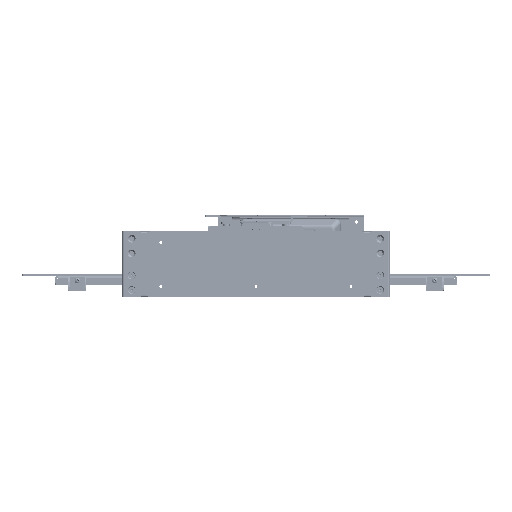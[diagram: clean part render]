
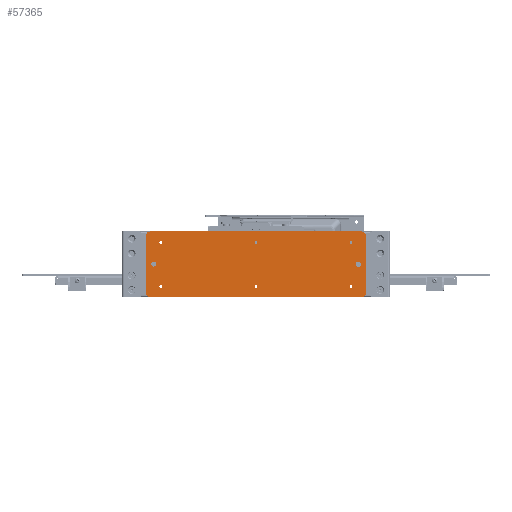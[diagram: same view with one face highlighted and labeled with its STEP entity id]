
A CAD part, top view. The second image highlights one B-rep face of the part: STEP entity #57365.
In plain terms, the highlighted planar face has unit normal (0, 0, 1) as drawn and (0, 0, -1) by its records, which use the part's own axes.
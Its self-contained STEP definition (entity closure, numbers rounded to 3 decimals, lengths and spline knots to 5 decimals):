
#5453=LINE('',#92304,#10705);
#5457=LINE('',#92313,#10709);
#5461=LINE('',#92322,#10713);
#5467=LINE('',#92346,#10719);
#10705=VECTOR('',#74858,1.);
#10709=VECTOR('',#74864,1.);
#10713=VECTOR('',#74870,1.);
#10719=VECTOR('',#74890,1.);
#20250=ORIENTED_EDGE('',*,*,#33287,.T.);
#20251=ORIENTED_EDGE('',*,*,#33288,.T.);
#20252=ORIENTED_EDGE('',*,*,#33289,.T.);
#20253=ORIENTED_EDGE('',*,*,#33290,.T.);
#20254=ORIENTED_EDGE('',*,*,#33291,.T.);
#20255=ORIENTED_EDGE('',*,*,#33292,.T.);
#20256=ORIENTED_EDGE('',*,*,#33270,.T.);
#20257=ORIENTED_EDGE('',*,*,#33272,.T.);
#20258=ORIENTED_EDGE('',*,*,#33275,.F.);
#20259=ORIENTED_EDGE('',*,*,#33293,.T.);
#20260=ORIENTED_EDGE('',*,*,#33265,.F.);
#20261=ORIENTED_EDGE('',*,*,#33294,.T.);
#20262=ORIENTED_EDGE('',*,*,#33261,.T.);
#20263=ORIENTED_EDGE('',*,*,#33295,.T.);
#20264=ORIENTED_EDGE('',*,*,#33257,.T.);
#20265=ORIENTED_EDGE('',*,*,#33296,.T.);
#33257=EDGE_CURVE('',#40326,#40327,#5453,.T.);
#33261=EDGE_CURVE('',#40330,#40331,#5457,.T.);
#33265=EDGE_CURVE('',#40334,#40335,#5461,.T.);
#33270=EDGE_CURVE('',#40339,#40339,#44483,.F.);
#33272=EDGE_CURVE('',#40341,#40341,#44485,.F.);
#33275=EDGE_CURVE('',#40344,#40345,#5467,.T.);
#33287=EDGE_CURVE('',#40352,#40352,#44496,.F.);
#33288=EDGE_CURVE('',#40353,#40353,#44497,.F.);
#33289=EDGE_CURVE('',#40354,#40354,#44498,.F.);
#33290=EDGE_CURVE('',#40355,#40355,#44499,.F.);
#33291=EDGE_CURVE('',#40356,#40356,#44500,.F.);
#33292=EDGE_CURVE('',#40357,#40357,#44501,.F.);
#33293=EDGE_CURVE('',#40344,#40335,#44502,.T.);
#33294=EDGE_CURVE('',#40334,#40330,#44503,.T.);
#33295=EDGE_CURVE('',#40331,#40326,#44504,.T.);
#33296=EDGE_CURVE('',#40327,#40345,#44505,.T.);
#40326=VERTEX_POINT('',#92305);
#40327=VERTEX_POINT('',#92306);
#40330=VERTEX_POINT('',#92314);
#40331=VERTEX_POINT('',#92315);
#40334=VERTEX_POINT('',#92323);
#40335=VERTEX_POINT('',#92324);
#40339=VERTEX_POINT('',#92334);
#40341=VERTEX_POINT('',#92339);
#40344=VERTEX_POINT('',#92345);
#40345=VERTEX_POINT('',#92347);
#40352=VERTEX_POINT('',#92368);
#40353=VERTEX_POINT('',#92370);
#40354=VERTEX_POINT('',#92372);
#40355=VERTEX_POINT('',#92374);
#40356=VERTEX_POINT('',#92376);
#40357=VERTEX_POINT('',#92378);
#44483=CIRCLE('',#64677,0.00396);
#44485=CIRCLE('',#64680,0.00396);
#44496=CIRCLE('',#64694,0.00246);
#44497=CIRCLE('',#64695,0.00246);
#44498=CIRCLE('',#64696,0.00246);
#44499=CIRCLE('',#64697,0.00246);
#44500=CIRCLE('',#64698,0.00246);
#44501=CIRCLE('',#64699,0.00246);
#44502=CIRCLE('',#64700,0.00635);
#44503=CIRCLE('',#64701,0.00635);
#44504=CIRCLE('',#64702,0.00635);
#44505=CIRCLE('',#64703,0.00635);
#47575=EDGE_LOOP('',(#20250));
#47576=EDGE_LOOP('',(#20251));
#47577=EDGE_LOOP('',(#20252));
#47578=EDGE_LOOP('',(#20253));
#47579=EDGE_LOOP('',(#20254));
#47580=EDGE_LOOP('',(#20255));
#47581=EDGE_LOOP('',(#20256));
#47582=EDGE_LOOP('',(#20257));
#47583=EDGE_LOOP('',(#20258,#20259,#20260,#20261,#20262,#20263,#20264,#20265));
#51775=FACE_BOUND('',#47575,.T.);
#51776=FACE_BOUND('',#47576,.T.);
#51777=FACE_BOUND('',#47577,.T.);
#51778=FACE_BOUND('',#47578,.T.);
#51779=FACE_BOUND('',#47579,.T.);
#51780=FACE_BOUND('',#47580,.T.);
#51781=FACE_BOUND('',#47581,.T.);
#51782=FACE_BOUND('',#47582,.T.);
#51783=FACE_BOUND('',#47583,.T.);
#55013=PLANE('',#64693);
#57365=ADVANCED_FACE('',(#51775,#51776,#51777,#51778,#51779,#51780,#51781,
#51782,#51783),#55013,.T.);
#64677=AXIS2_PLACEMENT_3D('',#92333,#74878,#74879);
#64680=AXIS2_PLACEMENT_3D('',#92338,#74884,#74885);
#64693=AXIS2_PLACEMENT_3D('',#92366,#74914,#74915);
#64694=AXIS2_PLACEMENT_3D('',#92367,#74916,#74917);
#64695=AXIS2_PLACEMENT_3D('',#92369,#74918,#74919);
#64696=AXIS2_PLACEMENT_3D('',#92371,#74920,#74921);
#64697=AXIS2_PLACEMENT_3D('',#92373,#74922,#74923);
#64698=AXIS2_PLACEMENT_3D('',#92375,#74924,#74925);
#64699=AXIS2_PLACEMENT_3D('',#92377,#74926,#74927);
#64700=AXIS2_PLACEMENT_3D('',#92379,#74928,#74929);
#64701=AXIS2_PLACEMENT_3D('',#92380,#74930,#74931);
#64702=AXIS2_PLACEMENT_3D('',#92381,#74932,#74933);
#64703=AXIS2_PLACEMENT_3D('',#92382,#74934,#74935);
#74858=DIRECTION('',(-1.,0.,0.));
#74864=DIRECTION('',(0.,-1.,0.));
#74870=DIRECTION('',(-1.,0.,0.));
#74878=DIRECTION('',(0.,0.,-1.));
#74879=DIRECTION('',(-1.,0.,0.));
#74884=DIRECTION('',(0.,0.,-1.));
#74885=DIRECTION('',(-1.,0.,0.));
#74890=DIRECTION('',(0.,-1.,0.));
#74914=DIRECTION('',(0.,0.,-1.));
#74915=DIRECTION('',(1.,0.,0.));
#74916=DIRECTION('',(0.,0.,-1.));
#74917=DIRECTION('',(-1.,0.,0.));
#74918=DIRECTION('',(0.,0.,-1.));
#74919=DIRECTION('',(-1.,0.,0.));
#74920=DIRECTION('',(0.,0.,-1.));
#74921=DIRECTION('',(-1.,0.,0.));
#74922=DIRECTION('',(0.,0.,-1.));
#74923=DIRECTION('',(-1.,0.,0.));
#74924=DIRECTION('',(0.,0.,-1.));
#74925=DIRECTION('',(-1.,0.,0.));
#74926=DIRECTION('',(0.,0.,-1.));
#74927=DIRECTION('',(-1.,0.,0.));
#74928=DIRECTION('',(0.,0.,-1.));
#74929=DIRECTION('',(-1.,0.,0.));
#74930=DIRECTION('',(0.,0.,-1.));
#74931=DIRECTION('',(-1.,0.,0.));
#74932=DIRECTION('',(0.,0.,-1.));
#74933=DIRECTION('',(-1.,0.,0.));
#74934=DIRECTION('',(0.,0.,-1.));
#74935=DIRECTION('',(-1.,0.,0.));
#92304=CARTESIAN_POINT('',(0.,-0.05715,-0.00229));
#92305=CARTESIAN_POINT('',(0.18415,-0.05715,-0.00229));
#92306=CARTESIAN_POINT('',(-0.18415,-0.05715,-0.00229));
#92313=CARTESIAN_POINT('',(0.1905,0.,-0.00229));
#92314=CARTESIAN_POINT('',(0.1905,0.0508,-0.00229));
#92315=CARTESIAN_POINT('',(0.1905,-0.0508,-0.00229));
#92322=CARTESIAN_POINT('',(0.,0.05715,-0.00229));
#92323=CARTESIAN_POINT('',(0.18415,0.05715,-0.00229));
#92324=CARTESIAN_POINT('',(-0.18415,0.05715,-0.00229));
#92333=CARTESIAN_POINT('',(-0.1778,0.,-0.00229));
#92334=CARTESIAN_POINT('',(-0.18176,0.,-0.00229));
#92338=CARTESIAN_POINT('',(0.1778,0.,-0.00229));
#92339=CARTESIAN_POINT('',(0.17384,0.,-0.00229));
#92345=CARTESIAN_POINT('',(-0.1905,0.0508,-0.00229));
#92346=CARTESIAN_POINT('',(-0.1905,0.,-0.00229));
#92347=CARTESIAN_POINT('',(-0.1905,-0.0508,-0.00229));
#92366=CARTESIAN_POINT('',(0.,0.,-0.00229));
#92367=CARTESIAN_POINT('',(-0.1651,0.0381,-0.00229));
#92368=CARTESIAN_POINT('',(-0.16756,0.0381,-0.00229));
#92369=CARTESIAN_POINT('',(0.,0.0381,-0.00229));
#92370=CARTESIAN_POINT('',(-0.00246,0.0381,-0.00229));
#92371=CARTESIAN_POINT('',(0.1651,0.0381,-0.00229));
#92372=CARTESIAN_POINT('',(0.16264,0.0381,-0.00229));
#92373=CARTESIAN_POINT('',(0.1651,-0.0381,-0.00229));
#92374=CARTESIAN_POINT('',(0.16264,-0.0381,-0.00229));
#92375=CARTESIAN_POINT('',(0.,-0.0381,-0.00229));
#92376=CARTESIAN_POINT('',(-0.00246,-0.0381,-0.00229));
#92377=CARTESIAN_POINT('',(-0.1651,-0.0381,-0.00229));
#92378=CARTESIAN_POINT('',(-0.16756,-0.0381,-0.00229));
#92379=CARTESIAN_POINT('',(-0.18415,0.0508,-0.00229));
#92380=CARTESIAN_POINT('',(0.18415,0.0508,-0.00229));
#92381=CARTESIAN_POINT('',(0.18415,-0.0508,-0.00229));
#92382=CARTESIAN_POINT('',(-0.18415,-0.0508,-0.00229));
